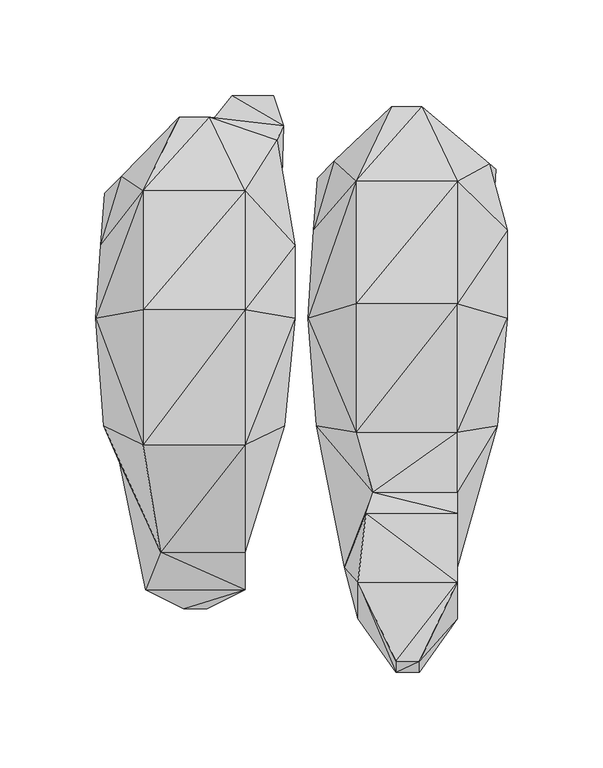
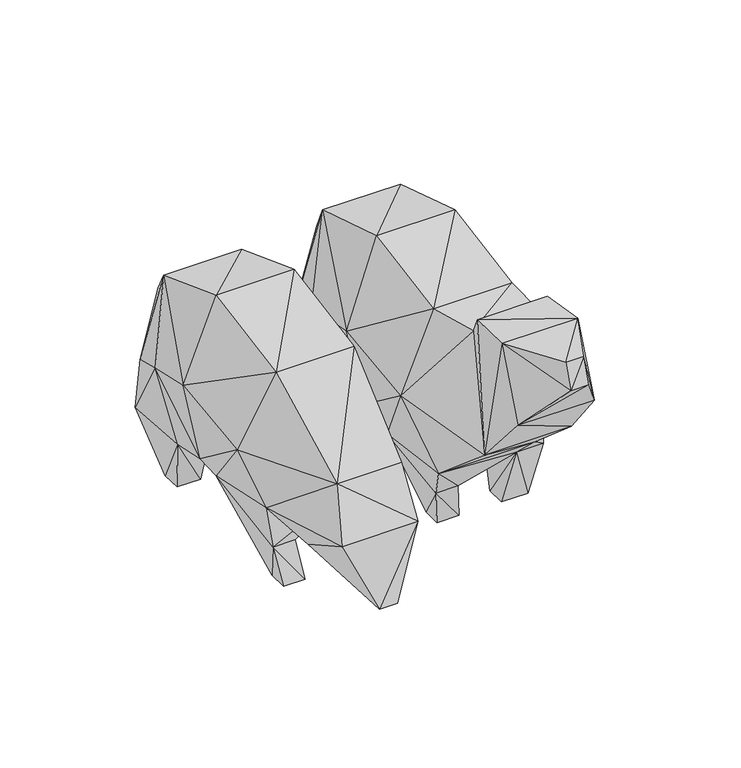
"""IFC4 building model written with IfcOpenShell, lengths in millimetres: geographic element geometry, Enscape AssetDefinition - Sculpture, Bears 1 : Enscape AssetDefinition - Sculpture, Bears 1."""

from ifc_helpers import new_model, si_unit, origin, place, context, project, spatial, faceted_brep, source, transform, mapped, element, save


def geographic_element_2e74eb4a(model_context):
    return source(origin(), model_context, "Body", "Brep", [
        faceted_brep([(-86.0277489, 9.5456662, 48.0339751), (-100.8496583, 9.5456652, 48.0339751), (-101.8673107, 26.9371308, 50.1142479), (-97.0691219, -42.6980294, 55.41078), (-92.6461145, -43.5097143, 25.9195063), (-105.3519696, -23.2223812, 88.2708877), (-88.986665, -36.1778438, 0.0), (-109.7343639, 32.9618528, 102.1481156), (-84.6395716, -33.1027508, 142.9892182), (-75.5305216, -89.4980505, 93.5271233), (-106.8692058, 71.3574514, 90.5186459), (-84.6395791, 99.9180526, 132.2156936), (-84.6395791, 37.4882556, 155.7891071), (-31.4045921, 37.4882556, 155.7891071), (-31.4045809, -33.1027508, 142.9892182), (-31.4045884, 99.9180526, 132.2156936), (-5.2185878, 71.3574514, 90.5186459), (-5.2185878, 32.9990089, 102.1481156), (-10.5842492, -23.2223812, 88.2708803), (-31.4045846, -89.4980505, 93.5271233), (-13.0433086, 72.6740509, 45.1784022), (-17.6483467, 26.9371271, 50.1142479), (-14.5491818, 126.3462305, 71.1869746), (-50.0301309, 138.3714378, 93.2456478), (-11.1856889, 133.9478046, 45.8310917), (-35.1707414, 67.6716417, 45.1784022), (-17.6860224, 135.4166865, 0.5045362), (-16.4930467, 149.6467888, -0.2477396), (-50.7541746, 133.9478046, 40.7114327), (-38.0363315, 149.6467888, -0.2477396), (-66.0140291, 138.3714378, 93.2456478), (-96.0213691, 107.5126901, 71.1869746), (-72.4474639, 116.131708, 66.4560124), (-104.7751904, 98.4237343, 45.1252721), (-77.569969, 107.1194261, 45.1252721), (-102.2912562, 52.4975136, 45.1784022), (-92.536293, 84.2203274, -0.2477295), (-92.536293, 69.9902177, 0.5045396), (-74.8784393, 58.6948022, 45.1784022), (-76.4264688, 69.9902177, 0.5045396), (-38.0374864, 9.5456662, 48.0339751), (-19.9870784, 9.5456662, 48.0339751), (-39.2293073, 135.4166865, 0.5045362), (-76.4264688, 84.2203274, -0.2477295), (-45.3602672, 7.9461019, 0.0), (-38.1150991, -17.624151, 36.7622152), (-27.2322483, 7.9461019, 0.0), (-45.3602709, -5.2037723, 0.0), (-27.2322521, -5.2037723, 0.0), (-19.9870784, -17.624151, 36.7622152), (-31.4045809, -42.6980294, 55.41078), (-77.732645, -43.5097143, 25.9195063), (-74.073188, -36.1778438, 0.0), (-74.073188, -49.32772, 0.0), (-88.986665, -49.32772, 0.0), (-83.4394842, -108.9823991, 62.7311766), (-83.4394842, -68.8396841, 40.0924683), (-31.4045884, -108.9823991, 62.7311841), (-63.6640117, -119.0848798, 16.6825503), (-31.4045846, -68.8396767, 40.0924683), (-51.1800647, -119.0848798, 16.6825503), (-63.6640117, -99.7383595, 15.854219), (-51.180061, -99.738352, 15.8542152)], [[[0, 1, 2]], [[3, 1, 4]], [[5, 2, 1]], [[1, 3, 5]], [[6, 4, 1]], [[0, 6, 1]], [[7, 2, 5]], [[7, 5, 8]], [[9, 8, 5]], [[9, 5, 3]], [[10, 7, 11]], [[7, 8, 12]], [[11, 7, 12]], [[10, 2, 7]], [[12, 8, 13]], [[13, 8, 14]], [[9, 14, 8]], [[11, 12, 15]], [[15, 12, 13]], [[15, 13, 16]], [[14, 17, 13]], [[16, 13, 17]], [[18, 17, 14]], [[9, 19, 14]], [[19, 18, 14]], [[20, 17, 21]], [[18, 21, 17]], [[17, 20, 16]], [[22, 16, 20]], [[22, 15, 16]], [[23, 15, 22]], [[11, 15, 23]], [[22, 24, 23]], [[22, 20, 24]], [[20, 21, 25]], [[26, 24, 20]], [[25, 26, 20]], [[27, 24, 26]], [[28, 24, 29]], [[23, 24, 28]], [[29, 24, 27]], [[23, 28, 30]], [[11, 23, 30]], [[31, 11, 30]], [[11, 31, 10]], [[32, 31, 30]], [[28, 32, 30]], [[33, 10, 31]], [[32, 34, 31]], [[31, 34, 33]], [[35, 2, 10]], [[10, 33, 35]], [[36, 35, 33]], [[34, 36, 33]], [[37, 35, 36]], [[38, 35, 39]], [[35, 21, 2]], [[38, 21, 35]], [[39, 35, 37]], [[0, 2, 40]], [[40, 2, 21]], [[18, 41, 21]], [[40, 21, 41]], [[25, 21, 38]], [[25, 38, 34]], [[39, 34, 38]], [[42, 26, 25]], [[25, 28, 42]], [[25, 34, 28]], [[43, 36, 34]], [[39, 43, 34]], [[32, 28, 34]], [[42, 28, 29]], [[29, 27, 42]], [[42, 27, 26]], [[39, 37, 43]], [[43, 37, 36]], [[40, 41, 44]], [[44, 45, 40]], [[45, 0, 40]], [[44, 46, 47]], [[44, 47, 45]], [[44, 41, 46]], [[46, 41, 48]], [[47, 46, 48]], [[18, 49, 41]], [[48, 41, 49]], [[47, 48, 45]], [[45, 48, 49]], [[49, 18, 50]], [[49, 50, 45]], [[51, 0, 45]], [[45, 50, 51]], [[52, 6, 0]], [[0, 51, 52]], [[51, 4, 53]], [[51, 50, 4]], [[52, 51, 53]], [[53, 54, 52]], [[52, 54, 6]], [[54, 4, 6]], [[53, 4, 54]], [[4, 50, 3]], [[55, 3, 56]], [[3, 55, 9]], [[50, 56, 3]], [[55, 57, 9]], [[56, 58, 55]], [[58, 57, 55]], [[9, 57, 19]], [[59, 50, 57]], [[58, 60, 57]], [[57, 50, 19]], [[60, 59, 57]], [[58, 56, 61]], [[61, 60, 58]], [[62, 59, 60]], [[61, 62, 60]], [[59, 56, 50]], [[62, 56, 59]], [[50, 18, 19]], [[62, 61, 56]]]),
        faceted_brep([(25.3049433, 0.2390197, 44.9739881), (10.4830312, 0.2390188, 44.9739881), (9.4653834, 26.9371327, 50.1142479), (14.2635675, -54.1356876, 47.7989912), (18.686574, -43.5097143, 25.9195063), (5.9807249, -23.2223812, 88.2708877), (22.3460291, -24.9201171, 0.0), (22.3460291, -38.0699933, 0.0), (33.6000472, -43.5097143, 25.9195063), (37.2595042, -38.0699933, 0.0), (37.2595042, -24.9201171, 0.0), (73.2175857, -44.1606045, 36.7622152), (73.2952058, 0.2390197, 44.9739881), (91.3456082, 0.2390197, 44.9739881), (65.9724176, -25.3468975, 0.0), (93.6843455, 26.937129, 50.1142479), (84.1004476, -25.3468957, 0.0), (65.9724176, -38.49677, 0.0), (84.1004327, -38.49677, 0.0), (91.3456082, -44.1606045, 36.7622152), (100.7484496, -23.2223812, 88.2708803), (79.9281076, -54.1356876, 47.7989912), (106.1141044, 32.9990089, 102.1481156), (79.9281076, -26.7310292, 145.9720433), (79.9281076, -97.2012803, 85.0964561), (79.9281076, -57.9379536, 145.7426846), (20.6852648, -97.2012728, 85.0964561), (1.5983272, 32.9618528, 102.1481156), (26.6931225, -26.7310217, 145.9720433), (35.8021706, -57.9379536, 145.7426846), (9.0414332, 60.3513978, 45.1784022), (4.4634892, 79.2113468, 90.5186459), (26.6931094, 104.7559902, 137.4512464), (26.6931094, 40.6454504, 157.6345563), (6.5575014, 106.2776148, 45.1252721), (15.3113212, 115.3665781, 71.1869746), (79.9281076, 104.7559902, 137.4512464), (45.3186594, 143.7699795, 94.9221328), (61.3025613, 143.7699795, 94.9221328), (79.9280927, 40.6454504, 157.6345563), (106.1141044, 79.2113394, 90.5186459), (96.7835039, 113.8926223, 71.1869746), (60.7289672, 124.8764843, 68.1062862), (38.8852283, 123.9855886, 66.4560124), (43.9528823, 114.9733216, 40.6133942), (60.5785139, 111.1023277, 40.7114327), (98.2893929, 80.5279389, 45.1784022), (100.1470089, 111.1023277, 45.8310917), (76.1619434, 75.5255222, 45.1784022), (93.6466604, 87.3019695, 0.5045362), (94.83964, 101.5320867, -0.2477379), (73.2963532, 101.5320867, -0.2477379), (72.1033812, 87.3019844, 0.5045362), (36.4542492, 66.5486902, 45.1784022), (34.9062197, 88.0386084, 0.504543), (18.7963974, 88.0386159, 0.504543), (18.7963974, 102.2687182, -0.2477312), (34.9062197, 102.2687107, -0.2477312), (79.9281076, -69.1366643, 161.939919), (32.0758075, -69.1366643, 161.939919), (79.9281076, -124.1902709, 120.5076948), (79.9281076, -105.1190495, 168.08559), (27.8932042, -124.190256, 120.5076948), (27.8932117, -105.1190495, 168.08559), (47.6686843, -146.5547234, 172.7080643), (60.1526201, -146.5547234, 172.7080643), (60.1526201, -152.4044275, 155.7498872), (47.6686768, -152.4044126, 155.7499021)], [[[0, 1, 2]], [[3, 1, 4]], [[5, 2, 1]], [[1, 3, 5]], [[6, 4, 1]], [[0, 6, 1]], [[7, 4, 6]], [[8, 4, 9]], [[8, 3, 4]], [[9, 4, 7]], [[10, 6, 0]], [[10, 7, 6]], [[9, 7, 10]], [[10, 8, 9]], [[0, 8, 10]], [[8, 0, 11]], [[11, 3, 8]], [[0, 2, 12]], [[11, 0, 12]], [[12, 13, 14]], [[12, 15, 13]], [[14, 11, 12]], [[12, 2, 15]], [[14, 16, 17]], [[14, 17, 11]], [[14, 13, 16]], [[16, 13, 18]], [[17, 16, 18]], [[17, 18, 11]], [[18, 13, 19]], [[11, 18, 19]], [[20, 13, 15]], [[20, 19, 13]], [[19, 20, 21]], [[19, 21, 11]], [[20, 22, 23]], [[21, 20, 24]], [[25, 20, 23]], [[24, 20, 25]], [[20, 15, 22]], [[24, 26, 21]], [[21, 26, 3]], [[3, 11, 21]], [[26, 5, 3]], [[27, 2, 5]], [[27, 5, 28]], [[29, 28, 5]], [[29, 5, 26]], [[30, 2, 31]], [[30, 15, 2]], [[31, 2, 27]], [[31, 27, 32]], [[27, 28, 33]], [[32, 27, 33]], [[34, 31, 35]], [[32, 35, 31]], [[31, 34, 30]], [[32, 33, 36]], [[35, 32, 37]], [[32, 36, 38]], [[32, 38, 37]], [[33, 28, 39]], [[36, 33, 39]], [[36, 39, 40]], [[38, 36, 41]], [[41, 36, 40]], [[42, 43, 38]], [[42, 38, 41]], [[38, 43, 37]], [[43, 35, 37]], [[43, 44, 35]], [[42, 45, 43]], [[43, 45, 44]], [[45, 42, 41]], [[41, 40, 46]], [[41, 47, 45]], [[41, 46, 47]], [[40, 22, 46]], [[40, 39, 22]], [[46, 15, 48]], [[46, 22, 15]], [[49, 47, 46]], [[48, 49, 46]], [[50, 47, 49]], [[45, 47, 51]], [[51, 47, 50]], [[52, 49, 48]], [[52, 50, 49]], [[51, 50, 52]], [[52, 45, 51]], [[48, 45, 52]], [[48, 44, 45]], [[48, 53, 44]], [[48, 15, 53]], [[53, 15, 30]], [[53, 30, 54]], [[54, 44, 53]], [[55, 30, 56]], [[56, 30, 34]], [[54, 30, 55]], [[54, 55, 57]], [[54, 57, 44]], [[57, 56, 44]], [[44, 56, 34]], [[35, 44, 34]], [[57, 55, 56]], [[23, 22, 39]], [[39, 28, 23]], [[29, 25, 23]], [[29, 23, 28]], [[24, 25, 58]], [[29, 58, 25]], [[59, 58, 29]], [[29, 26, 59]], [[24, 58, 60]], [[59, 61, 58]], [[60, 58, 61]], [[60, 62, 24]], [[24, 62, 26]], [[59, 26, 63]], [[63, 26, 62]], [[63, 61, 59]], [[64, 65, 61]], [[65, 60, 61]], [[64, 61, 63]], [[66, 60, 65]], [[66, 62, 60]], [[66, 67, 62]], [[67, 63, 62]], [[64, 63, 67]], [[67, 65, 64]], [[67, 66, 65]]]),
    ])


if __name__ == "__main__":
    model = new_model("IFC4")
    model_context = context("Model", 3, world=origin())
    ifc_project = project(units=[si_unit("LENGTHUNIT", "METRE", prefix="MILLI")], contexts=[model_context])
    site = spatial("IfcSite", under=ifc_project)
    building = spatial("IfcBuilding", under=site)
    placement = place(None, origin())
    geographic_element_shape = geographic_element_2e74eb4a(model_context)
    element("IfcGeographicElement", 1, ObjectType="Enscape AssetDefinition - Sculpture, Bears 1 : Enscape AssetDefinition - Sculpture, Bears 1", at=placement, inside=building, context=model_context, shape_type="MappedRepresentation", body=[
        mapped(geographic_element_shape, transform((0.0, 0.0, 0.0), x_axis=(1.0, 0.0, 0.0), y_axis=(0.0, 1.0, 0.0), z_axis=(0.0, 0.0, 1.0))),
    ])
    save(model, "model.ifc")
